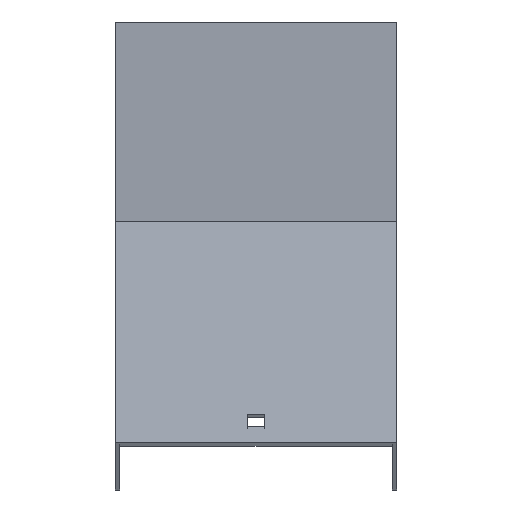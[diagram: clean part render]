
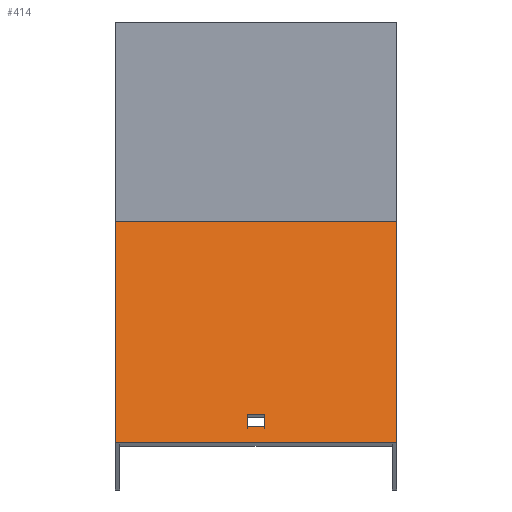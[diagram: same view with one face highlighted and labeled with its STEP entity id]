
A CAD part, top view. The second image highlights one B-rep face of the part: STEP entity #414.
In plain terms, the highlighted planar face has unit normal (0, 0.866, 0.5).
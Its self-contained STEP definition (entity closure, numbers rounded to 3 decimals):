
#4 = DIRECTION ( 'NONE',  ( 1., 0., 0. ) ) ;
#13 = LINE ( 'NONE', #85, #520 ) ;
#36 = PLANE ( 'NONE',  #635 ) ;
#47 = VECTOR ( 'NONE', #174, 1000. ) ;
#58 = VECTOR ( 'NONE', #4, 1000. ) ;
#68 = CARTESIAN_POINT ( 'NONE',  ( 51.5, -128.89, 567.665 ) ) ;
#71 = CARTESIAN_POINT ( 'NONE',  ( 51.5, -124.39, 559.871 ) ) ;
#79 = CARTESIAN_POINT ( 'NONE',  ( -51.5, -53.573, 437.213 ) ) ;
#85 = CARTESIAN_POINT ( 'NONE',  ( -51.5, -54.89, 439.493 ) ) ;
#86 = CARTESIAN_POINT ( 'NONE',  ( 51.5, -134.89, 578.057 ) ) ;
#90 = CARTESIAN_POINT ( 'NONE',  ( -51.5, -134.89, 578.057 ) ) ;
#102 = CARTESIAN_POINT ( 'NONE',  ( 3.25, -54.89, 439.493 ) ) ;
#106 = DIRECTION ( 'NONE',  ( 0., -0.5, 0.866 ) ) ;
#115 = VERTEX_POINT ( 'NONE', #264 ) ;
#131 = EDGE_CURVE ( 'NONE', #115, #135, #399, .T. ) ;
#135 = VERTEX_POINT ( 'NONE', #261 ) ;
#168 = DIRECTION ( 'NONE',  ( 0., 0.5, -0.866 ) ) ;
#171 = ORIENTED_EDGE ( 'NONE', *, *, #553, .T. ) ;
#174 = DIRECTION ( 'NONE',  ( -1., 0., 0. ) ) ;
#180 = CARTESIAN_POINT ( 'NONE',  ( 51.5, -54.89, 439.493 ) ) ;
#239 = VERTEX_POINT ( 'NONE', #273 ) ;
#248 = EDGE_CURVE ( 'NONE', #658, #311, #805, .T. ) ;
#261 = CARTESIAN_POINT ( 'NONE',  ( -3.25, -128.89, 567.665 ) ) ;
#264 = CARTESIAN_POINT ( 'NONE',  ( 3.25, -128.89, 567.665 ) ) ;
#267 = DIRECTION ( 'NONE',  ( 0., -0.5, 0.866 ) ) ;
#273 = CARTESIAN_POINT ( 'NONE',  ( 51.5, -53.573, 437.213 ) ) ;
#290 = VERTEX_POINT ( 'NONE', #482 ) ;
#301 = ORIENTED_EDGE ( 'NONE', *, *, #823, .T. ) ;
#311 = VERTEX_POINT ( 'NONE', #90 ) ;
#353 = EDGE_CURVE ( 'NONE', #639, #311, #13, .T. ) ;
#359 = DIRECTION ( 'NONE',  ( 0., -0.5, 0.866 ) ) ;
#362 = FACE_OUTER_BOUND ( 'NONE', #830, .T. ) ;
#381 = ORIENTED_EDGE ( 'NONE', *, *, #353, .T. ) ;
#390 = ORIENTED_EDGE ( 'NONE', *, *, #131, .T. ) ;
#399 = LINE ( 'NONE', #68, #842 ) ;
#409 = VECTOR ( 'NONE', #808, 1000. ) ;
#411 = VECTOR ( 'NONE', #106, 1000. ) ;
#414 = ADVANCED_FACE ( 'NONE', ( #442, #362 ), #36, .F. ) ;
#419 = VERTEX_POINT ( 'NONE', #824 ) ;
#423 = VECTOR ( 'NONE', #719, 1000. ) ;
#442 = FACE_BOUND ( 'NONE', #646, .T. ) ;
#457 = ORIENTED_EDGE ( 'NONE', *, *, #248, .F. ) ;
#462 = DIRECTION ( 'NONE',  ( -1., 0., 0. ) ) ;
#482 = CARTESIAN_POINT ( 'NONE',  ( 3.25, -124.39, 559.871 ) ) ;
#483 = CARTESIAN_POINT ( 'NONE',  ( 51.5, -53.573, 437.213 ) ) ;
#505 = DIRECTION ( 'NONE',  ( 0., -0.866, -0.5 ) ) ;
#519 = EDGE_CURVE ( 'NONE', #135, #419, #524, .T. ) ;
#520 = VECTOR ( 'NONE', #267, 1000. ) ;
#522 = VECTOR ( 'NONE', #359, 1000. ) ;
#524 = LINE ( 'NONE', #587, #423 ) ;
#543 = CARTESIAN_POINT ( 'NONE',  ( 51.5, -134.89, 578.057 ) ) ;
#549 = ORIENTED_EDGE ( 'NONE', *, *, #734, .T. ) ;
#553 = EDGE_CURVE ( 'NONE', #419, #290, #657, .T. ) ;
#587 = CARTESIAN_POINT ( 'NONE',  ( -3.25, -54.89, 439.493 ) ) ;
#622 = LINE ( 'NONE', #698, #411 ) ;
#635 = AXIS2_PLACEMENT_3D ( 'NONE', #180, #505, #168 ) ;
#639 = VERTEX_POINT ( 'NONE', #79 ) ;
#646 = EDGE_LOOP ( 'NONE', ( #171, #301, #390, #738 ) ) ;
#657 = LINE ( 'NONE', #71, #58 ) ;
#658 = VERTEX_POINT ( 'NONE', #86 ) ;
#690 = LINE ( 'NONE', #102, #522 ) ;
#698 = CARTESIAN_POINT ( 'NONE',  ( 51.5, -54.89, 439.493 ) ) ;
#719 = DIRECTION ( 'NONE',  ( 0., 0.5, -0.866 ) ) ;
#734 = EDGE_CURVE ( 'NONE', #239, #639, #760, .T. ) ;
#738 = ORIENTED_EDGE ( 'NONE', *, *, #519, .T. ) ;
#743 = ORIENTED_EDGE ( 'NONE', *, *, #782, .F. ) ;
#760 = LINE ( 'NONE', #483, #47 ) ;
#782 = EDGE_CURVE ( 'NONE', #239, #658, #622, .T. ) ;
#805 = LINE ( 'NONE', #543, #409 ) ;
#808 = DIRECTION ( 'NONE',  ( -1., 0., 0. ) ) ;
#823 = EDGE_CURVE ( 'NONE', #290, #115, #690, .T. ) ;
#824 = CARTESIAN_POINT ( 'NONE',  ( -3.25, -124.39, 559.871 ) ) ;
#830 = EDGE_LOOP ( 'NONE', ( #381, #457, #743, #549 ) ) ;
#842 = VECTOR ( 'NONE', #462, 1000. ) ;
